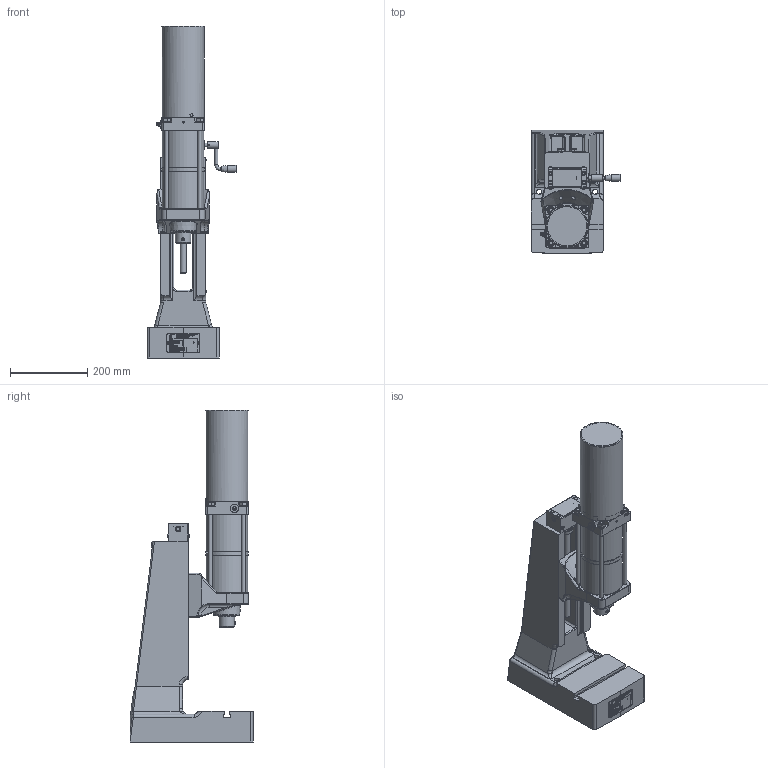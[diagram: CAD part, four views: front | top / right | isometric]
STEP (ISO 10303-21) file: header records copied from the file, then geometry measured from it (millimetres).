
FILE_DESCRIPTION(/* description */ ('Bausatz Ständer T460 N HV-OST'),/* implementation_level */ '2;1');
FILE_NAME(/* name */ 'B:\02_CAD_oeffentlich\CAD_3D_oeffentlich_step\Druckluftpresse\DRP_0850_060_100.stp',/* time_stamp */ '2017-08-03T11:05:47+02:00',/* author */ ('Finsterle'),/* organization */ (''),/* preprocessor_version */ 'ST-DEVELOPER v16.1',/* originating_system */ 'Autodesk Inventor 2016',/* authorisation */ '');
FILE_SCHEMA (('AUTOMOTIVE_DESIGN { 1 0 10303 214 3 1 1 }'));
Products named in the file (5): ENG-000341-1_V; ENG-000997-1_V; HBF-000760; ENG-000755; HBF-001031_V
Assembly tree (5 placements, depth 2):
  HBF-001031_V
    ENG-000341-1_V
    ENG-000997-1_V
    HBF-000760
    ENG-000755  x2
Bounding box: 231.79 x 321.2 x 860.55 mm (x, y, z)
Volume: 9426139 mm3; surface area: 1261926.4 mm2
Topology: 6 solids, 29 shells, 7734 faces, 20902 edges, 13642 vertices
Faces by surface type: plane 4622, bspline 2170, cylinder 516, cone 248, torus 102, sphere 76
Full cylindrical faces by diameter (mm): 1 x1, 2 x1, 2.459 x2, 3 x9, 3.242 x7, 3.5 x2, 3.65 x4, 4 x10, 4.134 x1, 4.5 x4, 4.917 x6, 5 x3, 6 x4, 6.2 x4, 6.5 x2, 6.647 x1, 8 x7, 8.4 x1, 8.5 x1, 10 x12, 10.02 x1, 10.106 x2, 10.5 x12, 11.8 x2, 12 x7, 13 x8, 13.5 x4, 14 x3, 14.376 x2, 14.95 x3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
Entity records: 264286 total; most frequent: CARTESIAN_POINT 79499, ORIENTED_EDGE 40472, DIRECTION 28392, EDGE_CURVE 20224, LINE 14012, VECTOR 14012, VERTEX_POINT 13483, EDGE_LOOP 8744
